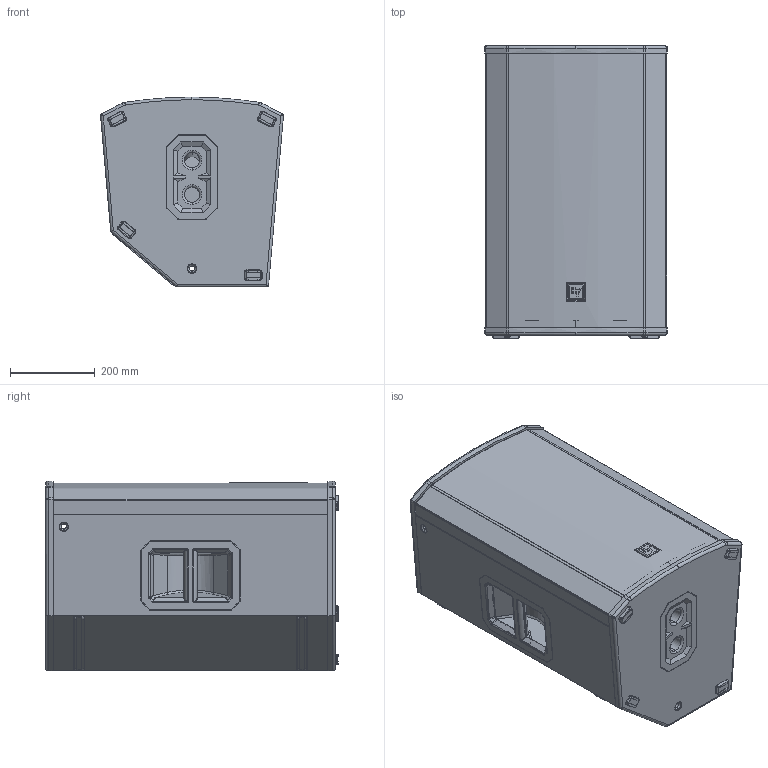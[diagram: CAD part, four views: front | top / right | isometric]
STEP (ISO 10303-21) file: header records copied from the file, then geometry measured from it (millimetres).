
FILE_DESCRIPTION (( 'STEP AP214' ), '1' );
FILE_NAME ('ETX-15P 3D CAD.STEP', '2022-09-26T21:08:03', ( '' ), ( '' ), 'SwSTEP 2.0', 'SolidWorks 2021', '' );
FILE_SCHEMA (( 'AUTOMOTIVE_DESIGN' ));
Length unit declared in the file: millimetre
Products named in the file (18): ETX-15P EV Logo; ETX-15P Amplifier XLR Female; ETX-15P Amplifier Knob 2; ETX-15P Monitor Foot; ETX-15P Amplifier Knob 1; ETX-15P Handle Cover; ETX-15P 3D CAD; ETX-15P Amplifier Cup; ETX-15P Handle; ETX-15P Amplifier XLR Male; ETX-15P Pole Mount; ETX-15P Amplifier Power Switch; ETX-15P Amplifier Display Glass; ETX-15P Amplifier Cord Receptacle; ETX-15P Foot; ETX-15P Amplifier Panel; ETX-15P Enclosure; ETX-15P Grille
Assembly tree (25 placements, depth 2):
  ETX-15P 3D CAD
    ETX-15P Enclosure
    ETX-15P Amplifier Panel
    ETX-15P Amplifier Cup
    ETX-15P Amplifier Knob 2
    ETX-15P Amplifier Display Glass
    ETX-15P Amplifier Power Switch
    ETX-15P Amplifier Cord Receptacle
    ETX-15P Amplifier XLR Male  x2
    ETX-15P Amplifier XLR Female
    ETX-15P Amplifier Knob 1  x2
    ETX-15P Handle Cover  x2
    ETX-15P Handle  x2
    ETX-15P Pole Mount
    ETX-15P Monitor Foot  x2
    ETX-15P Grille
    ETX-15P Foot  x4
    ETX-15P EV Logo
Bounding box: 431.57 x 690.52 x 448.1 mm (x, y, z)
Volume: 19900997 mm3; surface area: 3941535.1 mm2
Topology: 32 solids, 32 shells, 1917 faces, 5181 edges, 3344 vertices
Faces by surface type: plane 1006, cylinder 593, bspline 193, torus 58, cone 51, sphere 16
Entity records: 60924 total; most frequent: CARTESIAN_POINT 19525, ORIENTED_EDGE 7892, DIRECTION 7059, EDGE_CURVE 3946, VERTEX_POINT 2555, VECTOR 2441, LINE 2441, AXIS2_PLACEMENT_3D 2309
